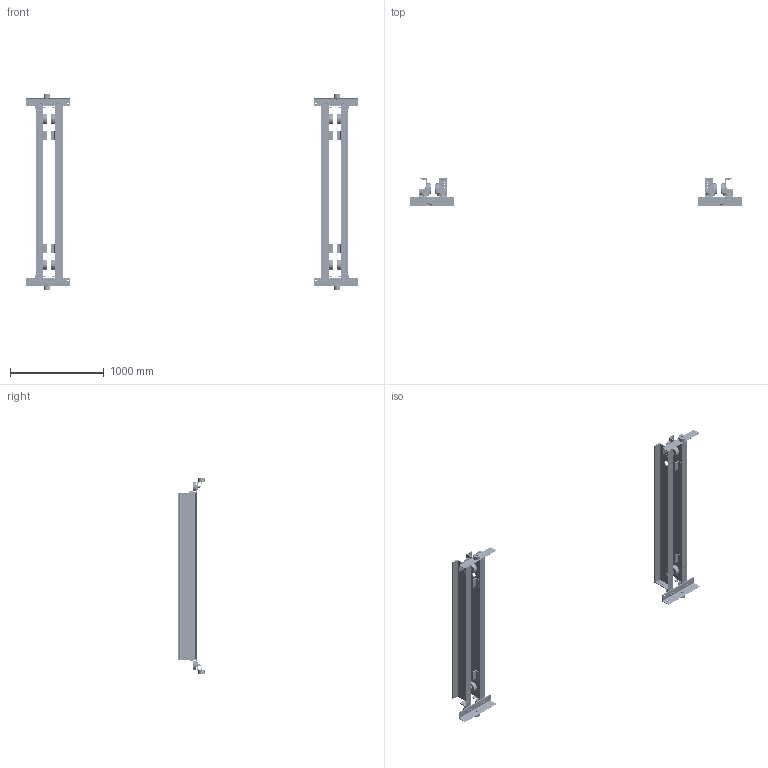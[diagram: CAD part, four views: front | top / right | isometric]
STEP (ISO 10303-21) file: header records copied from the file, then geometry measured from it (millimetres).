
FILE_DESCRIPTION (( 'STEP AP214' ), '1' );
FILE_NAME ('UP-3-0245.STEP', '2026-08-12T13:01:37', ( '' ), ( '' ), 'SwSTEP 2.0', 'SolidWorks 2026', '' );
FILE_SCHEMA (( 'AUTOMOTIVE_DESIGN' ));
Length unit declared in the file: inch
Products named in the file (42): 9012515_9012515; MC08-018.7_70; 9093146_9093146; 9093424_9093424; 9012514_9012514; 9000605; 6232803_6232803; 62366_6236613U; 5204405_5204405; 9047130_9047130; N6QO310E9108_N6QO3101108 DOMESTIC; 9000606; 62370_6237013U; 62369_6236913U; N6QO3101108_N6QO3101108; 62368_6236813U; 9047262_B27.7M - 3BM1-62; 6257004; 6234701X_6234701A; 6232304; 6232401; 9093101_9093101; 62371_6237113U; 9047125_B27.7M - 3AM1-23; 6234702X_6234702A; UP-3-0245; N6QL210207; 62367_6236713U; 6232404; 6234501; 6232301; 6232601_6232601; 6233203; 9093433_9093433; 9047252_9047252
Assembly tree (177 placements, depth 4):
  UP-3-0245
    62370_6237013U  x2
      62367_6236713U
        MC08-018.7_70
        6232803_6232803
        6232803_6232803
      6232301
      6232304
      5204405_5204405
      6233203
    62369_6236913U
      62366_6236613U
        MC08-018.7_70
        6232803_6232803
        6232803_6232803
      6232301  x2
      6232304  x2
      5204405_5204405  x2
      6233203  x2
      6257004
    62371_6237113U
      62368_6236813U
        MC08-018.7_70
        6232803_6232803
        6232803_6232803
      6232301  x2
      6232304  x2
      5204405_5204405  x2
      6233203  x2
      6257004
    6234701X_6234701A  x2
    6234702X_6234702A  x2
    N6QL210207  x4
    9012514_9012514  x4
    9093101_9093101  x4
    9093424_9093424  x8
    N6QO3101108_N6QO3101108  x8
      N6QO310E9108_N6QO3101108 DOMESTIC
      9047252_9047252
      9000605
    6232404  x8
    9047125_B27.7M - 3AM1-23  x8
    9012515_9012515  x16
    9093433_9093433  x32
    9093146_9093146  x8
    6234501  x8
      6232601_6232601
      9000606
      9047262_B27.7M - 3BM1-62
    6232401  x8
    9047130_9047130  x8
Bounding box: 3539.03 x 292.1 x 2084.61 mm (x, y, z)
Volume: 33527851.7 mm3; surface area: 7207582 mm2
Topology: 190 solids, 286 shells, 14944 faces, 39068 edges, 25816 vertices
Faces by surface type: plane 10068, cylinder 2508, bspline 1184, cone 1080, torus 104
Entity records: 59181 total; most frequent: CARTESIAN_POINT 17675, ORIENTED_EDGE 8530, DIRECTION 7827, EDGE_CURVE 4269, VERTEX_POINT 2824, AXIS2_PLACEMENT_3D 2818, VECTOR 2191, LINE 2191
